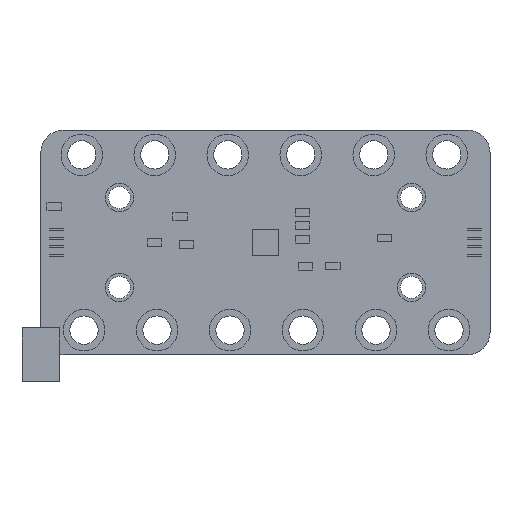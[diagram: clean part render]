
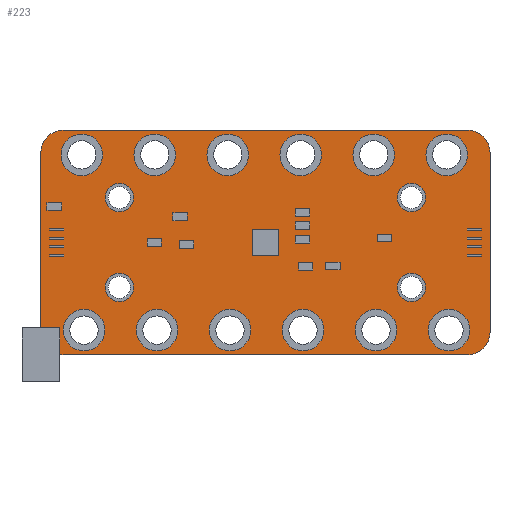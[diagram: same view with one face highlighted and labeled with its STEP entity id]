
A CAD part, top view. The second image highlights one B-rep face of the part: STEP entity #223.
In plain terms, the highlighted planar face has unit normal (0, 0, 1).
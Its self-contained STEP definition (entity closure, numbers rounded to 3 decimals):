
#187 = EDGE_CURVE('',#188,#190,#192,.T.);
#188 = VERTEX_POINT('',#189);
#189 = CARTESIAN_POINT('',(0.,2.54,1.6));
#190 = VERTEX_POINT('',#191);
#191 = CARTESIAN_POINT('',(0.,22.86,1.6));
#192 = LINE('',#193,#194);
#193 = CARTESIAN_POINT('',(0.,0.,1.6));
#194 = VECTOR('',#195,1.);
#195 = DIRECTION('',(-0.,1.,0.));
#223 = ADVANCED_FACE('',(#224,#285,#296,#307,#318,#329,#340,#351,#362,
    #373,#384,#395,#406,#417,#428,#439,#450),#461,.T.);
#224 = FACE_BOUND('',#225,.T.);
#225 = EDGE_LOOP('',(#226,#227,#236,#244,#253,#261,#270,#278));
#226 = ORIENTED_EDGE('',*,*,#187,.F.);
#227 = ORIENTED_EDGE('',*,*,#228,.T.);
#228 = EDGE_CURVE('',#188,#229,#231,.T.);
#229 = VERTEX_POINT('',#230);
#230 = CARTESIAN_POINT('',(2.54,0.,1.6));
#231 = CIRCLE('',#232,2.54);
#232 = AXIS2_PLACEMENT_3D('',#233,#234,#235);
#233 = CARTESIAN_POINT('',(2.54,2.54,1.6));
#234 = DIRECTION('',(0.,0.,1.));
#235 = DIRECTION('',(0.,-1.,0.));
#236 = ORIENTED_EDGE('',*,*,#237,.T.);
#237 = EDGE_CURVE('',#229,#238,#240,.T.);
#238 = VERTEX_POINT('',#239);
#239 = CARTESIAN_POINT('',(48.26,0.,1.6));
#240 = LINE('',#241,#242);
#241 = CARTESIAN_POINT('',(0.,0.,1.6));
#242 = VECTOR('',#243,1.);
#243 = DIRECTION('',(1.,0.,-0.));
#244 = ORIENTED_EDGE('',*,*,#245,.F.);
#245 = EDGE_CURVE('',#246,#238,#248,.T.);
#246 = VERTEX_POINT('',#247);
#247 = CARTESIAN_POINT('',(50.8,2.54,1.6));
#248 = CIRCLE('',#249,2.54);
#249 = AXIS2_PLACEMENT_3D('',#250,#251,#252);
#250 = CARTESIAN_POINT('',(48.26,2.54,1.6));
#251 = DIRECTION('',(-0.,-0.,-1.));
#252 = DIRECTION('',(0.,-1.,0.));
#253 = ORIENTED_EDGE('',*,*,#254,.T.);
#254 = EDGE_CURVE('',#246,#255,#257,.T.);
#255 = VERTEX_POINT('',#256);
#256 = CARTESIAN_POINT('',(50.8,22.86,1.6));
#257 = LINE('',#258,#259);
#258 = CARTESIAN_POINT('',(50.8,0.,1.6));
#259 = VECTOR('',#260,1.);
#260 = DIRECTION('',(-0.,1.,0.));
#261 = ORIENTED_EDGE('',*,*,#262,.T.);
#262 = EDGE_CURVE('',#255,#263,#265,.T.);
#263 = VERTEX_POINT('',#264);
#264 = CARTESIAN_POINT('',(48.26,25.4,1.6));
#265 = CIRCLE('',#266,2.54);
#266 = AXIS2_PLACEMENT_3D('',#267,#268,#269);
#267 = CARTESIAN_POINT('',(48.26,22.86,1.6));
#268 = DIRECTION('',(0.,0.,1.));
#269 = DIRECTION('',(0.,-1.,0.));
#270 = ORIENTED_EDGE('',*,*,#271,.F.);
#271 = EDGE_CURVE('',#272,#263,#274,.T.);
#272 = VERTEX_POINT('',#273);
#273 = CARTESIAN_POINT('',(2.54,25.4,1.6));
#274 = LINE('',#275,#276);
#275 = CARTESIAN_POINT('',(0.,25.4,1.6));
#276 = VECTOR('',#277,1.);
#277 = DIRECTION('',(1.,0.,-0.));
#278 = ORIENTED_EDGE('',*,*,#279,.F.);
#279 = EDGE_CURVE('',#190,#272,#280,.T.);
#280 = CIRCLE('',#281,2.54);
#281 = AXIS2_PLACEMENT_3D('',#282,#283,#284);
#282 = CARTESIAN_POINT('',(2.54,22.86,1.6));
#283 = DIRECTION('',(-0.,-0.,-1.));
#284 = DIRECTION('',(0.,-1.,0.));
#285 = FACE_BOUND('',#286,.T.);
#286 = EDGE_LOOP('',(#287));
#287 = ORIENTED_EDGE('',*,*,#288,.F.);
#288 = EDGE_CURVE('',#289,#289,#291,.T.);
#289 = VERTEX_POINT('',#290);
#290 = CARTESIAN_POINT('',(6.49,2.794,1.6));
#291 = CIRCLE('',#292,1.6);
#292 = AXIS2_PLACEMENT_3D('',#293,#294,#295);
#293 = CARTESIAN_POINT('',(4.89,2.794,1.6));
#294 = DIRECTION('',(0.,0.,1.));
#295 = DIRECTION('',(1.,0.,-0.));
#296 = FACE_BOUND('',#297,.T.);
#297 = EDGE_LOOP('',(#298));
#298 = ORIENTED_EDGE('',*,*,#299,.F.);
#299 = EDGE_CURVE('',#300,#300,#302,.T.);
#300 = VERTEX_POINT('',#301);
#301 = CARTESIAN_POINT('',(14.745,2.794,1.6));
#302 = CIRCLE('',#303,1.6);
#303 = AXIS2_PLACEMENT_3D('',#304,#305,#306);
#304 = CARTESIAN_POINT('',(13.145,2.794,1.6));
#305 = DIRECTION('',(0.,0.,1.));
#306 = DIRECTION('',(1.,0.,-0.));
#307 = FACE_BOUND('',#308,.T.);
#308 = EDGE_LOOP('',(#309));
#309 = ORIENTED_EDGE('',*,*,#310,.F.);
#310 = EDGE_CURVE('',#311,#311,#313,.T.);
#311 = VERTEX_POINT('',#312);
#312 = CARTESIAN_POINT('',(23.,2.794,1.6));
#313 = CIRCLE('',#314,1.6);
#314 = AXIS2_PLACEMENT_3D('',#315,#316,#317);
#315 = CARTESIAN_POINT('',(21.4,2.794,1.6));
#316 = DIRECTION('',(0.,0.,1.));
#317 = DIRECTION('',(1.,0.,-0.));
#318 = FACE_BOUND('',#319,.T.);
#319 = EDGE_LOOP('',(#320));
#320 = ORIENTED_EDGE('',*,*,#321,.F.);
#321 = EDGE_CURVE('',#322,#322,#324,.T.);
#322 = VERTEX_POINT('',#323);
#323 = CARTESIAN_POINT('',(10.14,7.62,1.6));
#324 = CIRCLE('',#325,1.25);
#325 = AXIS2_PLACEMENT_3D('',#326,#327,#328);
#326 = CARTESIAN_POINT('',(8.89,7.62,1.6));
#327 = DIRECTION('',(0.,0.,1.));
#328 = DIRECTION('',(1.,0.,-0.));
#329 = FACE_BOUND('',#330,.T.);
#330 = EDGE_LOOP('',(#331));
#331 = ORIENTED_EDGE('',*,*,#332,.F.);
#332 = EDGE_CURVE('',#333,#333,#335,.T.);
#333 = VERTEX_POINT('',#334);
#334 = CARTESIAN_POINT('',(31.255,2.794,1.6));
#335 = CIRCLE('',#336,1.6);
#336 = AXIS2_PLACEMENT_3D('',#337,#338,#339);
#337 = CARTESIAN_POINT('',(29.655,2.794,1.6));
#338 = DIRECTION('',(0.,0.,1.));
#339 = DIRECTION('',(1.,0.,-0.));
#340 = FACE_BOUND('',#341,.T.);
#341 = EDGE_LOOP('',(#342));
#342 = ORIENTED_EDGE('',*,*,#343,.F.);
#343 = EDGE_CURVE('',#344,#344,#346,.T.);
#344 = VERTEX_POINT('',#345);
#345 = CARTESIAN_POINT('',(39.51,2.794,1.6));
#346 = CIRCLE('',#347,1.6);
#347 = AXIS2_PLACEMENT_3D('',#348,#349,#350);
#348 = CARTESIAN_POINT('',(37.91,2.794,1.6));
#349 = DIRECTION('',(0.,0.,1.));
#350 = DIRECTION('',(1.,0.,-0.));
#351 = FACE_BOUND('',#352,.T.);
#352 = EDGE_LOOP('',(#353));
#353 = ORIENTED_EDGE('',*,*,#354,.F.);
#354 = EDGE_CURVE('',#355,#355,#357,.T.);
#355 = VERTEX_POINT('',#356);
#356 = CARTESIAN_POINT('',(47.765,2.794,1.6));
#357 = CIRCLE('',#358,1.6);
#358 = AXIS2_PLACEMENT_3D('',#359,#360,#361);
#359 = CARTESIAN_POINT('',(46.165,2.794,1.6));
#360 = DIRECTION('',(0.,0.,1.));
#361 = DIRECTION('',(1.,0.,-0.));
#362 = FACE_BOUND('',#363,.T.);
#363 = EDGE_LOOP('',(#364));
#364 = ORIENTED_EDGE('',*,*,#365,.F.);
#365 = EDGE_CURVE('',#366,#366,#368,.T.);
#366 = VERTEX_POINT('',#367);
#367 = CARTESIAN_POINT('',(43.16,7.62,1.6));
#368 = CIRCLE('',#369,1.25);
#369 = AXIS2_PLACEMENT_3D('',#370,#371,#372);
#370 = CARTESIAN_POINT('',(41.91,7.62,1.6));
#371 = DIRECTION('',(0.,0.,1.));
#372 = DIRECTION('',(1.,0.,-0.));
#373 = FACE_BOUND('',#374,.T.);
#374 = EDGE_LOOP('',(#375));
#375 = ORIENTED_EDGE('',*,*,#376,.F.);
#376 = EDGE_CURVE('',#377,#377,#379,.T.);
#377 = VERTEX_POINT('',#378);
#378 = CARTESIAN_POINT('',(10.14,17.78,1.6));
#379 = CIRCLE('',#380,1.25);
#380 = AXIS2_PLACEMENT_3D('',#381,#382,#383);
#381 = CARTESIAN_POINT('',(8.89,17.78,1.6));
#382 = DIRECTION('',(0.,0.,1.));
#383 = DIRECTION('',(1.,0.,-0.));
#384 = FACE_BOUND('',#385,.T.);
#385 = EDGE_LOOP('',(#386));
#386 = ORIENTED_EDGE('',*,*,#387,.F.);
#387 = EDGE_CURVE('',#388,#388,#390,.T.);
#388 = VERTEX_POINT('',#389);
#389 = CARTESIAN_POINT('',(6.236,22.606,1.6));
#390 = CIRCLE('',#391,1.6);
#391 = AXIS2_PLACEMENT_3D('',#392,#393,#394);
#392 = CARTESIAN_POINT('',(4.636,22.606,1.6));
#393 = DIRECTION('',(0.,0.,1.));
#394 = DIRECTION('',(1.,0.,-0.));
#395 = FACE_BOUND('',#396,.T.);
#396 = EDGE_LOOP('',(#397));
#397 = ORIENTED_EDGE('',*,*,#398,.F.);
#398 = EDGE_CURVE('',#399,#399,#401,.T.);
#399 = VERTEX_POINT('',#400);
#400 = CARTESIAN_POINT('',(14.491,22.606,1.6));
#401 = CIRCLE('',#402,1.6);
#402 = AXIS2_PLACEMENT_3D('',#403,#404,#405);
#403 = CARTESIAN_POINT('',(12.891,22.606,1.6));
#404 = DIRECTION('',(0.,0.,1.));
#405 = DIRECTION('',(1.,0.,-0.));
#406 = FACE_BOUND('',#407,.T.);
#407 = EDGE_LOOP('',(#408));
#408 = ORIENTED_EDGE('',*,*,#409,.F.);
#409 = EDGE_CURVE('',#410,#410,#412,.T.);
#410 = VERTEX_POINT('',#411);
#411 = CARTESIAN_POINT('',(22.746,22.606,1.6));
#412 = CIRCLE('',#413,1.6);
#413 = AXIS2_PLACEMENT_3D('',#414,#415,#416);
#414 = CARTESIAN_POINT('',(21.146,22.606,1.6));
#415 = DIRECTION('',(0.,0.,1.));
#416 = DIRECTION('',(1.,0.,-0.));
#417 = FACE_BOUND('',#418,.T.);
#418 = EDGE_LOOP('',(#419));
#419 = ORIENTED_EDGE('',*,*,#420,.F.);
#420 = EDGE_CURVE('',#421,#421,#423,.T.);
#421 = VERTEX_POINT('',#422);
#422 = CARTESIAN_POINT('',(43.16,17.78,1.6));
#423 = CIRCLE('',#424,1.25);
#424 = AXIS2_PLACEMENT_3D('',#425,#426,#427);
#425 = CARTESIAN_POINT('',(41.91,17.78,1.6));
#426 = DIRECTION('',(0.,0.,1.));
#427 = DIRECTION('',(1.,0.,-0.));
#428 = FACE_BOUND('',#429,.T.);
#429 = EDGE_LOOP('',(#430));
#430 = ORIENTED_EDGE('',*,*,#431,.F.);
#431 = EDGE_CURVE('',#432,#432,#434,.T.);
#432 = VERTEX_POINT('',#433);
#433 = CARTESIAN_POINT('',(31.001,22.606,1.6));
#434 = CIRCLE('',#435,1.6);
#435 = AXIS2_PLACEMENT_3D('',#436,#437,#438);
#436 = CARTESIAN_POINT('',(29.401,22.606,1.6));
#437 = DIRECTION('',(0.,0.,1.));
#438 = DIRECTION('',(1.,0.,-0.));
#439 = FACE_BOUND('',#440,.T.);
#440 = EDGE_LOOP('',(#441));
#441 = ORIENTED_EDGE('',*,*,#442,.F.);
#442 = EDGE_CURVE('',#443,#443,#445,.T.);
#443 = VERTEX_POINT('',#444);
#444 = CARTESIAN_POINT('',(39.256,22.606,1.6));
#445 = CIRCLE('',#446,1.6);
#446 = AXIS2_PLACEMENT_3D('',#447,#448,#449);
#447 = CARTESIAN_POINT('',(37.656,22.606,1.6));
#448 = DIRECTION('',(0.,0.,1.));
#449 = DIRECTION('',(1.,0.,-0.));
#450 = FACE_BOUND('',#451,.T.);
#451 = EDGE_LOOP('',(#452));
#452 = ORIENTED_EDGE('',*,*,#453,.F.);
#453 = EDGE_CURVE('',#454,#454,#456,.T.);
#454 = VERTEX_POINT('',#455);
#455 = CARTESIAN_POINT('',(47.511,22.606,1.6));
#456 = CIRCLE('',#457,1.6);
#457 = AXIS2_PLACEMENT_3D('',#458,#459,#460);
#458 = CARTESIAN_POINT('',(45.911,22.606,1.6));
#459 = DIRECTION('',(0.,0.,1.));
#460 = DIRECTION('',(1.,0.,-0.));
#461 = PLANE('',#462);
#462 = AXIS2_PLACEMENT_3D('',#463,#464,#465);
#463 = CARTESIAN_POINT('',(0.,0.,1.6));
#464 = DIRECTION('',(0.,0.,1.));
#465 = DIRECTION('',(1.,0.,-0.));
